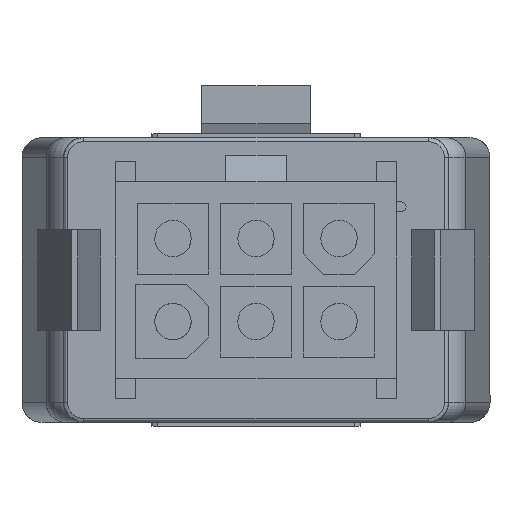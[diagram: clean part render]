
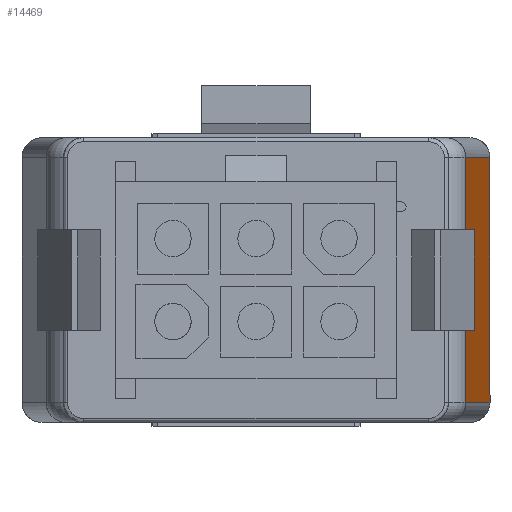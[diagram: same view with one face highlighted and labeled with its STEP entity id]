
A CAD part, front view. The second image highlights one B-rep face of the part: STEP entity #14469.
In plain terms, the highlighted planar face has unit normal (0.996, -0.089, 0).
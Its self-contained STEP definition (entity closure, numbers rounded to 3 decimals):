
#83 = LINE ( 'NONE', #28098, #35409 ) ;
#403 = VECTOR ( 'NONE', #3426, 1000. ) ;
#542 = VECTOR ( 'NONE', #34303, 1000. ) ;
#1889 = FACE_OUTER_BOUND ( 'NONE', #7017, .T. ) ;
#2973 = ORIENTED_EDGE ( 'NONE', *, *, #9688, .T. ) ;
#3175 = CARTESIAN_POINT ( 'NONE',  ( 11.68, 278.9, -7.101 ) ) ;
#3426 = DIRECTION ( 'NONE',  ( 0., 0., -1. ) ) ;
#3712 = VERTEX_POINT ( 'NONE', #4731 ) ;
#3715 = DIRECTION ( 'NONE',  ( -0.996, 0.089, 0. ) ) ;
#4731 = CARTESIAN_POINT ( 'NONE',  ( 11.68, 278.9, 6.099 ) ) ;
#7017 = EDGE_LOOP ( 'NONE', ( #15399, #11967, #2973, #30597 ) ) ;
#8461 = LINE ( 'NONE', #13746, #542 ) ;
#9688 = EDGE_CURVE ( 'NONE', #35279, #12777, #83, .T. ) ;
#11247 = VECTOR ( 'NONE', #15296, 1000. ) ;
#11248 = EDGE_CURVE ( 'NONE', #35279, #3712, #8461, .T. ) ;
#11967 = ORIENTED_EDGE ( 'NONE', *, *, #11248, .F. ) ;
#12777 = VERTEX_POINT ( 'NONE', #13251 ) ;
#13065 = LINE ( 'NONE', #33139, #11247 ) ;
#13251 = CARTESIAN_POINT ( 'NONE',  ( 10.48, 265.5, -6.101 ) ) ;
#13746 = CARTESIAN_POINT ( 'NONE',  ( 10.48, 265.5, 6.099 ) ) ;
#14469 = ADVANCED_FACE ( 'NONE', ( #1889 ), #21533, .F. ) ;
#15296 = DIRECTION ( 'NONE',  ( -0.089, -0.996, 0. ) ) ;
#15399 = ORIENTED_EDGE ( 'NONE', *, *, #32942, .F. ) ;
#16067 = VERTEX_POINT ( 'NONE', #36205 ) ;
#16210 = LINE ( 'NONE', #3175, #403 ) ;
#18399 = DIRECTION ( 'NONE',  ( -0.089, -0.996, 0. ) ) ;
#21533 = PLANE ( 'NONE',  #27489 ) ;
#22669 = DIRECTION ( 'NONE',  ( 0., 0., -1. ) ) ;
#27489 = AXIS2_PLACEMENT_3D ( 'NONE', #33498, #3715, #18399 ) ;
#28098 = CARTESIAN_POINT ( 'NONE',  ( 10.48, 265.5, -7.101 ) ) ;
#30597 = ORIENTED_EDGE ( 'NONE', *, *, #31620, .F. ) ;
#31620 = EDGE_CURVE ( 'NONE', #16067, #12777, #13065, .T. ) ;
#32942 = EDGE_CURVE ( 'NONE', #3712, #16067, #16210, .T. ) ;
#33139 = CARTESIAN_POINT ( 'NONE',  ( 11.458, 276.416, -6.101 ) ) ;
#33498 = CARTESIAN_POINT ( 'NONE',  ( 10.48, 265.5, -7.101 ) ) ;
#34303 = DIRECTION ( 'NONE',  ( 0.089, 0.996, 0. ) ) ;
#34652 = CARTESIAN_POINT ( 'NONE',  ( 10.48, 265.5, 6.099 ) ) ;
#35279 = VERTEX_POINT ( 'NONE', #34652 ) ;
#35409 = VECTOR ( 'NONE', #22669, 1000. ) ;
#36205 = CARTESIAN_POINT ( 'NONE',  ( 11.68, 278.9, -6.101 ) ) ;
